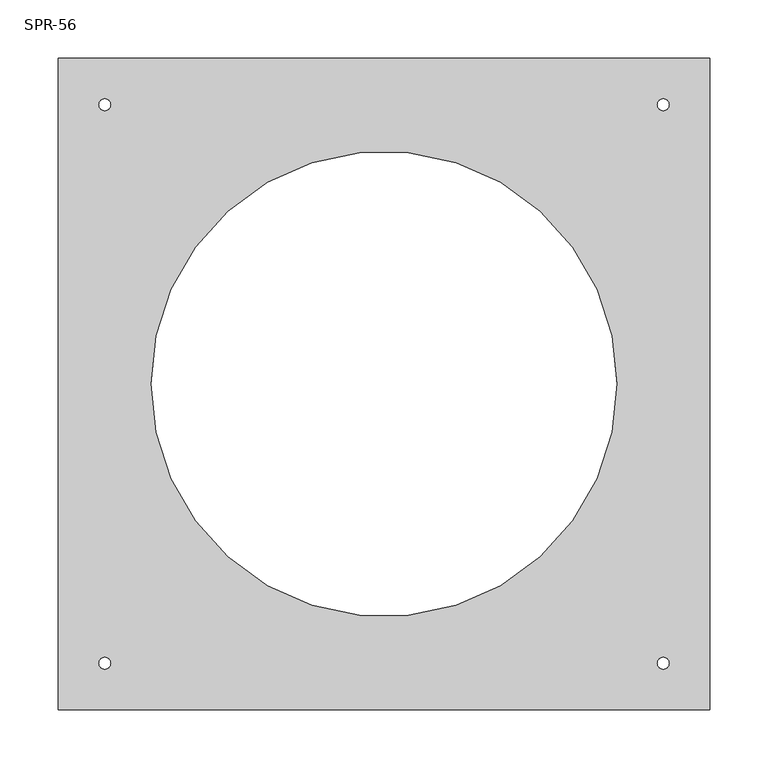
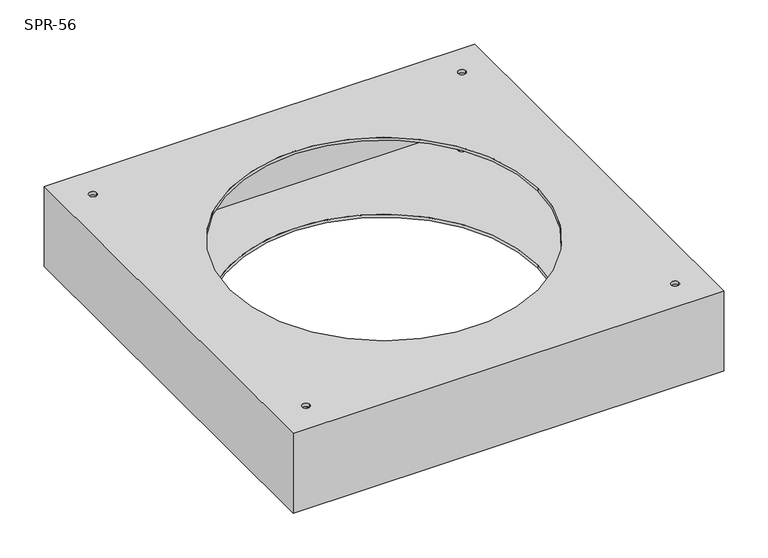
"""IFC4 building model written with IfcOpenShell, lengths in millimetres: damper geometry, СВ_КлапанИнерционный_КрышныйПрямоугольный_30-100_SPR : SPR-56."""

from ifc_helpers import new_model, si_unit, frame, origin, place, context, project, spatial, polyline, circle_curve, source, transform, mapped, element, save
from ifc_brep_helpers import plane_surface, revolved_surface, advanced_brep


def spr_56_3c2c66e6(model_context):
    return source(origin(), model_context, "Body", "AdvancedBrep", [
        advanced_brep(
        [(280.0, 280.0, 0.0), (-280.0, 280.0, 0.0), (-280.0, -280.0, 0.0), (280.0, -280.0, 0.0), (-200.0, 0.0, 0.0), (200.0, 0.0, 0.0), (-235.0, -240.0, 0.0), (-245.0, -240.0, 0.0), (245.0, -240.0, 0.0), (235.0, -240.0, 0.0), (245.0, 240.0, 0.0), (235.0, 240.0, 0.0), (-235.0, 240.0, 0.0), (-245.0, 240.0, 0.0), (280.0, 280.0, -110.0), (280.0, -280.0, -110.0), (-280.0, -280.0, -110.0), (-280.0, 280.0, -110.0), (-200.0, 0.0, -110.0), (200.0, 0.0, -110.0), (-245.0, -240.0, -110.0), (-235.0, -240.0, -110.0), (235.0, -240.0, -110.0), (245.0, -240.0, -110.0), (235.0, 240.0, -110.0), (245.0, 240.0, -110.0), (-245.0, 240.0, -110.0), (-235.0, 240.0, -110.0), (-200.0, 0.0, -4.0), (200.0, 0.0, -4.0), (200.0, 0.0, -106.0), (-200.0, 0.0, -106.0), (275.0, 275.0, -4.0), (275.0, -275.0, -4.0), (-275.0, -275.0, -4.0), (-275.0, 275.0, -4.0), (-245.0, -240.0, -4.0), (-235.0, -240.0, -4.0), (235.0, -240.0, -4.0), (245.0, -240.0, -4.0), (235.0, 240.0, -4.0), (245.0, 240.0, -4.0), (-245.0, 240.0, -4.0), (-235.0, 240.0, -4.0), (275.0, 275.0, -106.0), (-275.0, 275.0, -106.0), (-275.0, -275.0, -106.0), (275.0, -275.0, -106.0), (-235.0, -240.0, -106.0), (-245.0, -240.0, -106.0), (245.0, -240.0, -106.0), (235.0, -240.0, -106.0), (245.0, 240.0, -106.0), (235.0, 240.0, -106.0), (-235.0, 240.0, -106.0), (-245.0, 240.0, -106.0)],
        [
            (0, 1),
            (1, 2),
            (2, 3),
            (3, 0),
            (4, 5, circle_curve(frame((0.0, 0.0, 0.0), z_axis=(0.0, 0.0, -1.0), x_axis=(1.0, 0.0, 0.0)), 200.0)),
            (5, 4, circle_curve(frame((0.0, 0.0, 0.0), z_axis=(0.0, 0.0, -1.0), x_axis=(1.0, 0.0, 0.0)), 200.0)),
            (6, 7, circle_curve(frame((-240.0, -240.0, 0.0), z_axis=(0.0, 0.0, -1.0), x_axis=(1.0, 0.0, 0.0)), 5.0)),
            (7, 6, circle_curve(frame((-240.0, -240.0, 0.0), z_axis=(0.0, 0.0, -1.0), x_axis=(1.0, 0.0, 0.0)), 5.0)),
            (8, 9, circle_curve(frame((240.0, -240.0, 0.0), z_axis=(0.0, 0.0, -1.0), x_axis=(1.0, 0.0, 0.0)), 5.0)),
            (9, 8, circle_curve(frame((240.0, -240.0, 0.0), z_axis=(0.0, 0.0, -1.0), x_axis=(1.0, 0.0, 0.0)), 5.0)),
            (10, 11, circle_curve(frame((240.0, 240.0, 0.0), z_axis=(0.0, 0.0, -1.0), x_axis=(1.0, 0.0, 0.0)), 5.0)),
            (11, 10, circle_curve(frame((240.0, 240.0, 0.0), z_axis=(0.0, 0.0, -1.0), x_axis=(1.0, 0.0, 0.0)), 5.0)),
            (12, 13, circle_curve(frame((-240.0, 240.0, 0.0), z_axis=(0.0, 0.0, -1.0), x_axis=(1.0, 0.0, 0.0)), 5.0)),
            (13, 12, circle_curve(frame((-240.0, 240.0, 0.0), z_axis=(0.0, 0.0, -1.0), x_axis=(1.0, 0.0, 0.0)), 5.0)),
            (14, 15),
            (15, 16),
            (16, 17),
            (17, 14),
            (18, 19, circle_curve(frame((0.0, 0.0, -110.0), z_axis=(0.0, 0.0, 1.0), x_axis=(1.0, 0.0, 0.0)), 200.0)),
            (19, 18, circle_curve(frame((0.0, 0.0, -110.0), z_axis=(0.0, 0.0, 1.0), x_axis=(1.0, 0.0, 0.0)), 200.0)),
            (20, 21, circle_curve(frame((-240.0, -240.0, -110.0), z_axis=(0.0, 0.0, 1.0), x_axis=(1.0, 0.0, 0.0)), 5.0)),
            (21, 20, circle_curve(frame((-240.0, -240.0, -110.0), z_axis=(0.0, 0.0, 1.0), x_axis=(1.0, 0.0, 0.0)), 5.0)),
            (22, 23, circle_curve(frame((240.0, -240.0, -110.0), z_axis=(0.0, 0.0, 1.0), x_axis=(1.0, 0.0, 0.0)), 5.0)),
            (23, 22, circle_curve(frame((240.0, -240.0, -110.0), z_axis=(0.0, 0.0, 1.0), x_axis=(1.0, 0.0, 0.0)), 5.0)),
            (24, 25, circle_curve(frame((240.0, 240.0, -110.0), z_axis=(0.0, 0.0, 1.0), x_axis=(1.0, 0.0, 0.0)), 5.0)),
            (25, 24, circle_curve(frame((240.0, 240.0, -110.0), z_axis=(0.0, 0.0, 1.0), x_axis=(1.0, 0.0, 0.0)), 5.0)),
            (26, 27, circle_curve(frame((-240.0, 240.0, -110.0), z_axis=(0.0, 0.0, 1.0), x_axis=(1.0, 0.0, 0.0)), 5.0)),
            (27, 26, circle_curve(frame((-240.0, 240.0, -110.0), z_axis=(0.0, 0.0, 1.0), x_axis=(1.0, 0.0, 0.0)), 5.0)),
            (0, 14),
            (17, 1),
            (16, 2),
            (15, 3),
            (4, 28),
            (28, 29, circle_curve(frame((0.0, 0.0, -4.0), z_axis=(0.0, 0.0, -1.0), x_axis=(1.0, 0.0, 0.0)), 200.0)),
            (29, 5),
            (19, 30),
            (30, 31, circle_curve(frame((0.0, 0.0, -106.0), z_axis=(0.0, 0.0, 1.0), x_axis=(1.0, 0.0, 0.0)), 200.0)),
            (31, 18),
            (29, 28, circle_curve(frame((0.0, 0.0, -4.0), z_axis=(0.0, 0.0, -1.0), x_axis=(1.0, 0.0, 0.0)), 200.0)),
            (31, 30, circle_curve(frame((0.0, 0.0, -106.0), z_axis=(0.0, 0.0, 1.0), x_axis=(1.0, 0.0, 0.0)), 200.0)),
            (32, 33),
            (33, 34),
            (34, 35),
            (35, 32),
            (36, 37, circle_curve(frame((-240.0, -240.0, -4.0), z_axis=(0.0, 0.0, 1.0), x_axis=(1.0, 0.0, 0.0)), 5.0)),
            (37, 36, circle_curve(frame((-240.0, -240.0, -4.0), z_axis=(0.0, 0.0, 1.0), x_axis=(1.0, 0.0, 0.0)), 5.0)),
            (38, 39, circle_curve(frame((240.0, -240.0, -4.0), z_axis=(0.0, 0.0, 1.0), x_axis=(1.0, 0.0, 0.0)), 5.0)),
            (39, 38, circle_curve(frame((240.0, -240.0, -4.0), z_axis=(0.0, 0.0, 1.0), x_axis=(1.0, 0.0, 0.0)), 5.0)),
            (40, 41, circle_curve(frame((240.0, 240.0, -4.0), z_axis=(0.0, 0.0, 1.0), x_axis=(1.0, 0.0, 0.0)), 5.0)),
            (41, 40, circle_curve(frame((240.0, 240.0, -4.0), z_axis=(0.0, 0.0, 1.0), x_axis=(1.0, 0.0, 0.0)), 5.0)),
            (42, 43, circle_curve(frame((-240.0, 240.0, -4.0), z_axis=(0.0, 0.0, 1.0), x_axis=(1.0, 0.0, 0.0)), 5.0)),
            (43, 42, circle_curve(frame((-240.0, 240.0, -4.0), z_axis=(0.0, 0.0, 1.0), x_axis=(1.0, 0.0, 0.0)), 5.0)),
            (44, 45),
            (45, 46),
            (46, 47),
            (47, 44),
            (48, 49, circle_curve(frame((-240.0, -240.0, -106.0), z_axis=(0.0, 0.0, -1.0), x_axis=(1.0, 0.0, 0.0)), 5.0)),
            (49, 48, circle_curve(frame((-240.0, -240.0, -106.0), z_axis=(0.0, 0.0, -1.0), x_axis=(1.0, 0.0, 0.0)), 5.0)),
            (50, 51, circle_curve(frame((240.0, -240.0, -106.0), z_axis=(0.0, 0.0, -1.0), x_axis=(1.0, 0.0, 0.0)), 5.0)),
            (51, 50, circle_curve(frame((240.0, -240.0, -106.0), z_axis=(0.0, 0.0, -1.0), x_axis=(1.0, 0.0, 0.0)), 5.0)),
            (52, 53, circle_curve(frame((240.0, 240.0, -106.0), z_axis=(0.0, 0.0, -1.0), x_axis=(1.0, 0.0, 0.0)), 5.0)),
            (53, 52, circle_curve(frame((240.0, 240.0, -106.0), z_axis=(0.0, 0.0, -1.0), x_axis=(1.0, 0.0, 0.0)), 5.0)),
            (54, 55, circle_curve(frame((-240.0, 240.0, -106.0), z_axis=(0.0, 0.0, -1.0), x_axis=(1.0, 0.0, 0.0)), 5.0)),
            (55, 54, circle_curve(frame((-240.0, 240.0, -106.0), z_axis=(0.0, 0.0, -1.0), x_axis=(1.0, 0.0, 0.0)), 5.0)),
            (35, 45),
            (44, 32),
            (34, 46),
            (33, 47),
            (36, 7),
            (6, 37),
            (20, 49),
            (48, 21),
            (38, 9),
            (8, 39),
            (22, 51),
            (50, 23),
            (40, 11),
            (10, 41),
            (24, 53),
            (52, 25),
            (42, 13),
            (12, 43),
            (26, 55),
            (54, 27),
        ],
        [
            plane_surface(frame((-280.0, 280.0, 0.0), z_axis=(0.0, 0.0, 1.0), x_axis=(-1.0, 0.0, 0.0))),
            plane_surface(frame((-280.0, 280.0, -110.0), z_axis=(0.0, 0.0, -1.0), x_axis=(1.0, 0.0, 0.0))),
            plane_surface(frame((280.0, 280.0, 0.0), z_axis=(0.0, 1.0, 0.0), x_axis=(0.0, 0.0, -1.0))),
            plane_surface(frame((-280.0, 280.0, 0.0), z_axis=(-1.0, 0.0, 0.0), x_axis=(0.0, 0.0, -1.0))),
            plane_surface(frame((-280.0, -280.0, 0.0), z_axis=(0.0, -1.0, 0.0), x_axis=(0.0, 0.0, -1.0))),
            plane_surface(frame((280.0, -280.0, 0.0), z_axis=(1.0, 0.0, 0.0), x_axis=(0.0, 0.0, -1.0))),
            revolved_surface(polyline([(200.0, 0.0, -4.0), (200.0, 0.0, 0.0)]), (0.0, 0.0, 0.0), (0.0, 0.0, -1.0)),
            revolved_surface(polyline([(200.0, 0.0, -110.0), (200.0, 0.0, -106.0)]), (0.0, 0.0, 0.0), (0.0, 0.0, -1.0)),
            plane_surface(frame((-275.0, 275.0, -4.0), z_axis=(0.0, 0.0, -1.0), x_axis=(-1.0, 0.0, 0.0))),
            plane_surface(frame((-275.0, 275.0, -106.0), z_axis=(0.0, 0.0, 1.0), x_axis=(1.0, 0.0, 0.0))),
            plane_surface(frame((275.0, 275.0, -4.0), z_axis=(0.0, -1.0, 0.0), x_axis=(0.0, 0.0, -1.0))),
            plane_surface(frame((-275.0, 275.0, -4.0), z_axis=(1.0, 0.0, 0.0), x_axis=(0.0, 0.0, -1.0))),
            plane_surface(frame((-275.0, -275.0, -4.0), z_axis=(0.0, 1.0, 0.0), x_axis=(0.0, 0.0, -1.0))),
            plane_surface(frame((275.0, -275.0, -4.0), z_axis=(-1.0, 0.0, 0.0), x_axis=(0.0, 0.0, -1.0))),
            revolved_surface(polyline([(-235.0, -240.0, 0.0), (-235.0, -240.0, -4.0)]), (-240.0, -240.0, -110.0), (0.0, 0.0, 1.0)),
            revolved_surface(polyline([(-235.0, -240.0, -106.0), (-235.0, -240.0, -110.0)]), (-240.0, -240.0, -110.0), (0.0, 0.0, 1.0)),
            revolved_surface(polyline([(245.0, -240.0, 0.0), (245.0, -240.0, -4.0)]), (240.0, -240.0, 0.0), (0.0, 0.0, 1.0)),
            revolved_surface(polyline([(245.0, -240.0, -106.0), (245.0, -240.0, -110.0)]), (240.0, -240.0, 0.0), (0.0, 0.0, 1.0)),
            revolved_surface(polyline([(245.0, 240.0, 0.0), (245.0, 240.0, -4.0)]), (240.0, 240.0, 0.0), (0.0, 0.0, 1.0)),
            revolved_surface(polyline([(245.0, 240.0, -106.0), (245.0, 240.0, -110.0)]), (240.0, 240.0, 0.0), (0.0, 0.0, 1.0)),
            revolved_surface(polyline([(-235.0, 240.0, 0.0), (-235.0, 240.0, -4.0)]), (-240.0, 240.0, 0.0), (0.0, 0.0, 1.0)),
            revolved_surface(polyline([(-235.0, 240.0, -106.0), (-235.0, 240.0, -110.0)]), (-240.0, 240.0, 0.0), (0.0, 0.0, 1.0)),
        ],
        [
            (0, [[1, 2, 3, 4], [5, 6], [7, 8], [9, 10], [11, 12], [13, 14]]),
            (1, [[15, 16, 17, 18], [19, 20], [21, 22], [23, 24], [25, 26], [27, 28]]),
            (2, [[-1, 29, -18, 30]]),
            (3, [[-2, -30, -17, 31]]),
            (4, [[-3, -31, -16, 32]]),
            (5, [[-4, -32, -15, -29]]),
            (6, [[-5, 33, 34, 35]]),
            (7, [[-20, 36, 37, 38]]),
            (6, [[-6, -35, 39, -33]]),
            (7, [[-19, -38, 40, -36]]),
            (8, [[41, 42, 43, 44], [-34, -39], [45, 46], [47, 48], [49, 50], [51, 52]]),
            (9, [[53, 54, 55, 56], [-37, -40], [57, 58], [59, 60], [61, 62], [63, 64]]),
            (10, [[-44, 65, -53, 66]]),
            (11, [[-43, 67, -54, -65]]),
            (12, [[-42, 68, -55, -67]]),
            (13, [[-41, -66, -56, -68]]),
            (14, [[69, -7, 70, -45]]),
            (15, [[71, -57, 72, -21]]),
            (14, [[-69, -46, -70, -8]]),
            (15, [[-71, -22, -72, -58]]),
            (16, [[73, -9, 74, -47]]),
            (17, [[75, -59, 76, -23]]),
            (16, [[-73, -48, -74, -10]]),
            (17, [[-75, -24, -76, -60]]),
            (18, [[77, -11, 78, -49]]),
            (19, [[79, -61, 80, -25]]),
            (18, [[-77, -50, -78, -12]]),
            (19, [[-79, -26, -80, -62]]),
            (20, [[81, -13, 82, -51]]),
            (21, [[83, -63, 84, -27]]),
            (20, [[-81, -52, -82, -14]]),
            (21, [[-83, -28, -84, -64]]),
        ],
    ),
    ])


if __name__ == "__main__":
    model = new_model("IFC4")
    model_context = context("Model", 3, world=origin())
    ifc_project = project(units=[si_unit("LENGTHUNIT", "METRE", prefix="MILLI")], contexts=[model_context])
    site = spatial("IfcSite", under=ifc_project)
    building = spatial("IfcBuilding", under=site)
    placement = place(None, origin())
    spr_56_shape = spr_56_3c2c66e6(model_context)
    element("IfcDamper", 1, ObjectType="СВ_КлапанИнерционный_КрышныйПрямоугольный_30-100_SPR : SPR-56", at=placement, inside=building, context=model_context, shape_type="MappedRepresentation", body=[
        mapped(spr_56_shape, transform((0.0, 0.0, 0.0), x_axis=(1.0, 0.0, 0.0), y_axis=(0.0, 1.0, 0.0), z_axis=(0.0, 0.0, 1.0))),
    ])
    save(model, "model.ifc")
